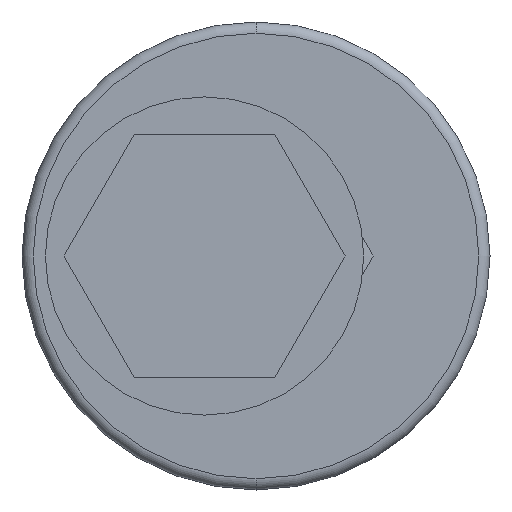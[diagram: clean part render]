
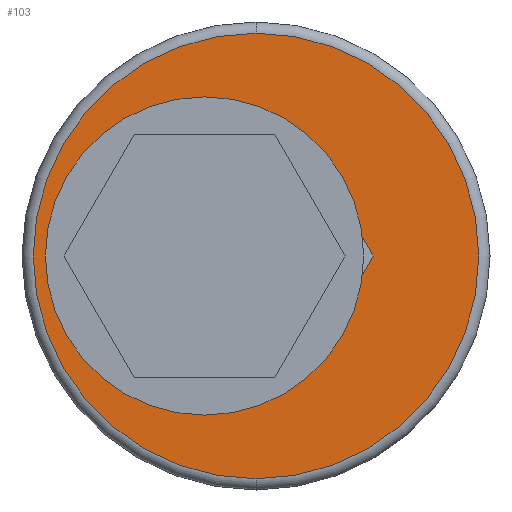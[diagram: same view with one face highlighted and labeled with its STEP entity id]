
A CAD part, front view. The second image highlights one B-rep face of the part: STEP entity #103.
In plain terms, the highlighted planar face has unit normal (0, -1, 0).
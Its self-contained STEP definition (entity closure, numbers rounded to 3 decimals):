
#103=ADVANCED_FACE('',(#185,#186),#187,.T.);
#185=FACE_OUTER_BOUND('',#337,.T.);
#186=FACE_BOUND('',#338,.T.);
#187=PLANE('',#339);
#337=EDGE_LOOP('',(#549,#550));
#338=EDGE_LOOP('',(#551,#552));
#339=AXIS2_PLACEMENT_3D('',#553,#554,#555);
#549=ORIENTED_EDGE('',*,*,#1011,.T.);
#550=ORIENTED_EDGE('',*,*,#1019,.T.);
#551=ORIENTED_EDGE('',*,*,#1018,.F.);
#552=ORIENTED_EDGE('',*,*,#1015,.F.);
#553=CARTESIAN_POINT('',(1.25,2.8,-5.75));
#554=DIRECTION('',(0.,-1.0,0.));
#555=DIRECTION('',(-1.0,0.,0.));
#1011=EDGE_CURVE('',#1207,#1205,#1208,.T.);
#1015=EDGE_CURVE('',#1213,#1215,#1216,.T.);
#1018=EDGE_CURVE('',#1215,#1213,#1219,.T.);
#1019=EDGE_CURVE('',#1205,#1207,#1220,.T.);
#1205=VERTEX_POINT('',#1459);
#1207=VERTEX_POINT('',#1461);
#1208=CIRCLE('',#1462,11.9);
#1213=VERTEX_POINT('',#1467);
#1215=VERTEX_POINT('',#1470);
#1216=CIRCLE('',#1471,5.75);
#1219=CIRCLE('',#1475,5.75);
#1220=CIRCLE('',#1476,11.9);
#1459=CARTESIAN_POINT('',(1.25,2.8,11.9));
#1461=CARTESIAN_POINT('',(1.25,2.8,-11.9));
#1462=AXIS2_PLACEMENT_3D('',#1857,#1858,#1859);
#1467=CARTESIAN_POINT('',(1.25,2.8,5.75));
#1470=CARTESIAN_POINT('',(1.25,2.8,-5.75));
#1471=AXIS2_PLACEMENT_3D('',#1867,#1868,#1869);
#1475=AXIS2_PLACEMENT_3D('',#1874,#1875,#1876);
#1476=AXIS2_PLACEMENT_3D('',#1877,#1878,#1879);
#1857=CARTESIAN_POINT('',(1.25,2.8,0.));
#1858=DIRECTION('',(0.,-1.0,0.));
#1859=DIRECTION('',(0.,0.,-1.0));
#1867=CARTESIAN_POINT('',(1.25,2.8,0.));
#1868=DIRECTION('',(0.,-1.0,0.));
#1869=DIRECTION('',(0.,0.,-1.0));
#1874=CARTESIAN_POINT('',(1.25,2.8,0.));
#1875=DIRECTION('',(0.,-1.0,0.));
#1876=DIRECTION('',(0.,0.,-1.0));
#1877=CARTESIAN_POINT('',(1.25,2.8,0.));
#1878=DIRECTION('',(0.,-1.0,0.));
#1879=DIRECTION('',(0.,0.,-1.0));
